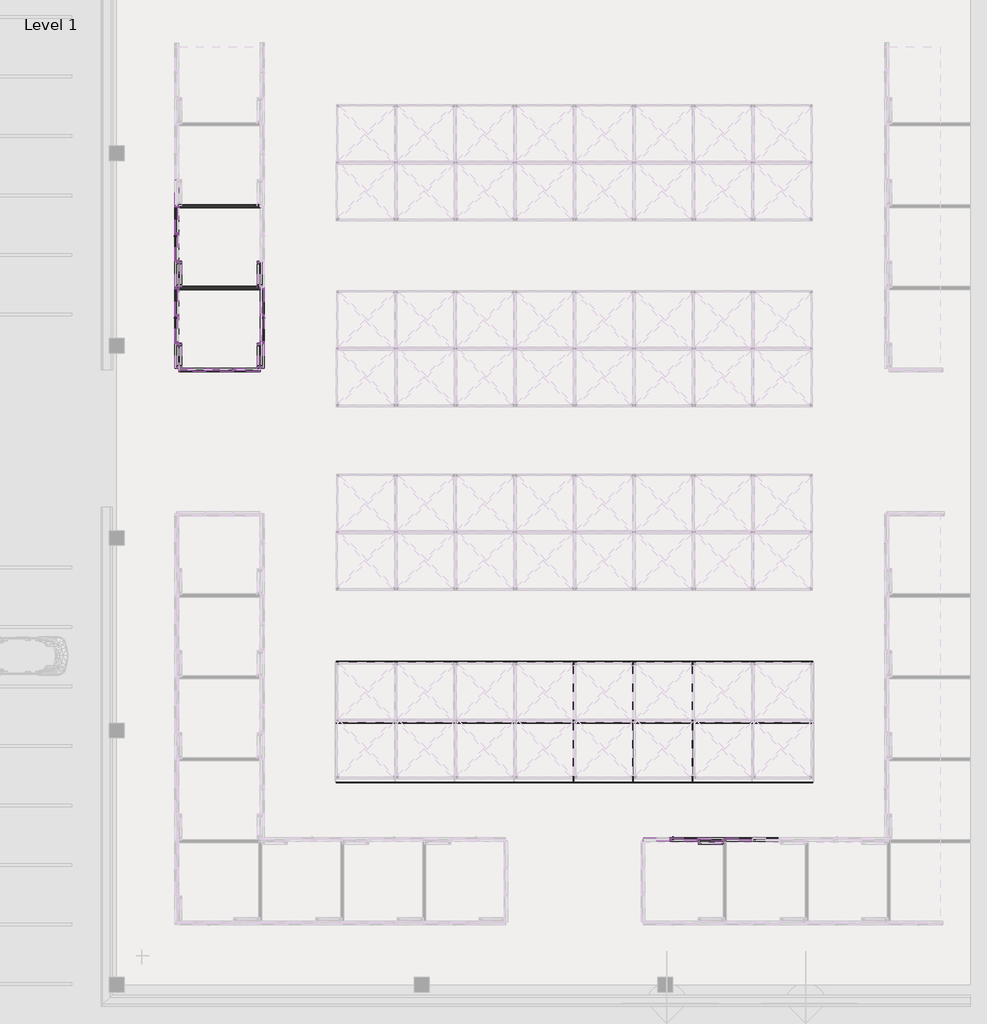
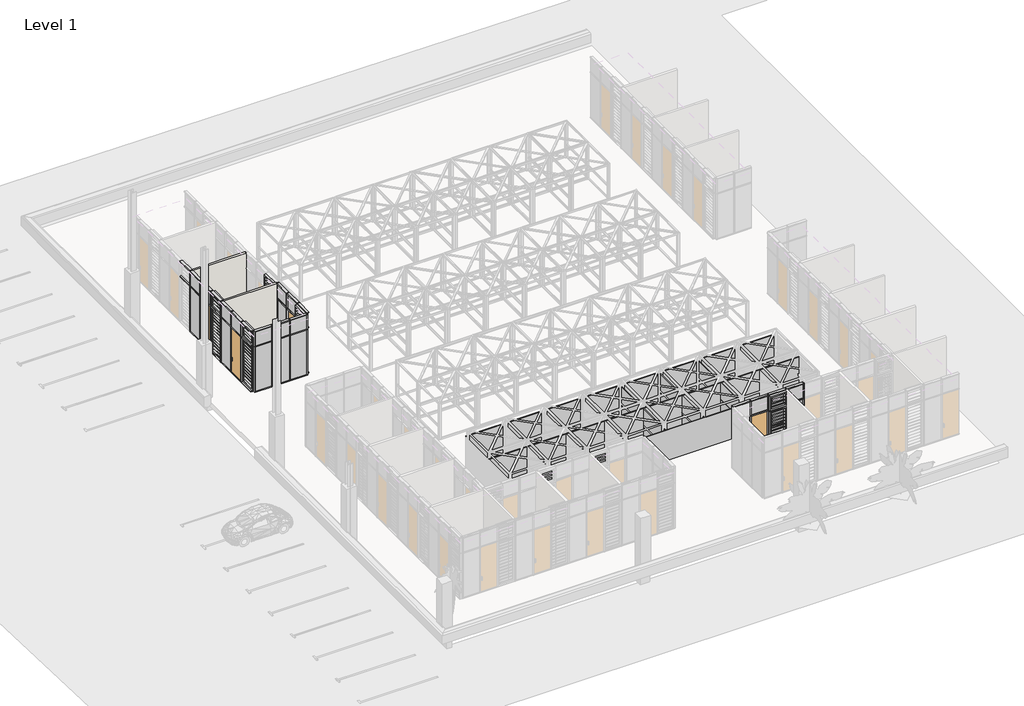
# One storey, part 5 of 32: 83 members, 34 plates, 4 doors, 2 walls.
"""IFC4 building model written with IfcOpenShell, lengths in millimetres."""

from ifc_helpers import new_model, si_unit, frame, origin, place, context, project, spatial, polyline, outline, extrude, transform, mapped, element, save
from components import curtain_wall_door_single_glass_nz_curtain_wall_door_single_2bf20aac, curtain_wall_door_single_glass_nz_curtain_wall_door_single_ff8afd41, rectangular_mullion_50x150mm_c4504768, rectangular_mullion_50x150mm_6c7cb899, rectangular_mullion_50x150mm_b0af8bb0, rectangular_mullion_50x150mm_bbc1c4ea, rectangular_mullion_50x150mm_1a36453b, rectangular_mullion_50x150mm_593aaa1e, rectangular_mullion_50x150mm_a65b6ca2, rectangular_mullion_50x150mm_38419d34, rectangular_mullion_50x150mm_eeb88b28, rectangular_mullion_50x150mm_68c91185, rectangular_mullion_50x150mm_0d540e17, rectangular_mullion_50x150mm_108cdc6f, rectangular_mullion_50x150mm_375c3673, rectangular_mullion_50x150mm_9239b3be, curtain_wall_panel_louver_20805_curtain_wall_panel_louver_4af505d4, curtain_wall_panel_louver_20805_curtain_wall_panel_louver_14332c5b, curtain_wall_panel_louver_20805_curtain_wall_panel_louver_d3fb298f, curtain_wall_panel_louver_20805_curtain_wall_panel_louver_ac1eef51, curtain_wall_panel_glass_louver_20805_curtain_wall_panel_036772b2, curtain_wall_panel_glass_louver_20805_curtain_wall_panel_0f8e40a1, curtain_wall_panel_glass_louver_20805_curtain_wall_panel_1d079b44, curtain_wall_panel_glass_louver_20805_curtain_wall_panel_de26d37e, system_panel_glazed_1b7991b1, system_panel_glazed_29269e8f, system_panel_glazed_a5e8ce8b, system_panel_glazed_7622d22c, system_panel_glazed_53fe5bbb, system_panel_glazed_57f08e05, system_panel_glazed_300e6ed4, system_panel_solid_585523e5, system_panel_solid_10c0fb46

model = new_model("IFC4")

# Units and contexts
model_context = context("Model", 3, world=origin())
ifc_project = project(units=[si_unit("LENGTHUNIT", "METRE", prefix="MILLI")], contexts=[model_context])

# Site, building, storey
site = spatial("IfcSite", under=ifc_project)
building = spatial("IfcBuilding", under=site)
storey = spatial("IfcBuildingStorey", under=building, Name="Level 1", Elevation=2800.0)

# Doors
placement = place(None, origin())
curtain_wall_door_single_glass_nz_curtain_wall_door_single_shape = curtain_wall_door_single_glass_nz_curtain_wall_door_single_2bf20aac(model_context)
element("IfcDoor", 1, ObjectType="Curtain Wall Door-Single-Glass (NZ) : Curtain Wall Door-Single-Glass (NZ)", at=placement, inside=storey, context=model_context, shape_type="MappedRepresentation", body=[
    mapped(curtain_wall_door_single_glass_nz_curtain_wall_door_single_shape, transform((-66780.3056756, -29943.4199596, 2850.0), x_axis=(1.0, 0.0, 0.0), y_axis=(0.0, 1.0, 0.0), z_axis=(0.0, 0.0, 1.0))),
])
element("IfcDoor", 2, ObjectType="Curtain Wall Door-Single-Glass (NZ) : Curtain Wall Door-Single-Glass (NZ)", at=placement, inside=storey, context=model_context, shape_type="MappedRepresentation", body=[
    mapped(curtain_wall_door_single_glass_nz_curtain_wall_door_single_shape, transform((-83784.8408447, -9355.9199596, 2850.0), x_axis=(0.0, -1.0, 0.0), y_axis=(1.0, 0.0, 0.0), z_axis=(0.0, 0.0, 1.0))),
])
curtain_wall_door_single_glass_nz_curtain_wall_door_single_2_shape = curtain_wall_door_single_glass_nz_curtain_wall_door_single_ff8afd41(model_context)
element("IfcDoor", 3, ObjectType="Curtain Wall Door-Single-Glass (NZ) : Curtain Wall Door-Single-Glass (NZ)", at=placement, inside=storey, context=model_context, shape_type="MappedRepresentation", body=[
    mapped(curtain_wall_door_single_glass_nz_curtain_wall_door_single_2_shape, transform((-87234.8408447, -6055.9199597, 2850.0), x_axis=(0.0, -1.0, 0.0), y_axis=(1.0, 0.0, 0.0), z_axis=(0.0, 0.0, 1.0))),
])
element("IfcDoor", 4, ObjectType="Curtain Wall Door-Single-Glass (NZ) : Curtain Wall Door-Single-Glass (NZ)", at=placement, inside=storey, context=model_context, shape_type="MappedRepresentation", body=[
    mapped(curtain_wall_door_single_glass_nz_curtain_wall_door_single_2_shape, transform((-87234.8408447, -9355.9199596, 2850.0), x_axis=(0.0, -1.0, 0.0), y_axis=(1.0, 0.0, 0.0), z_axis=(0.0, 0.0, 1.0))),
])

# Members
rectangular_mullion_50x150mm_shape = rectangular_mullion_50x150mm_c4504768(model_context)
element("IfcMember", 5, ObjectType="Rectangular Mullion : 50x150mm", at=placement, inside=storey, context=model_context, shape_type="MappedRepresentation", body=[
    mapped(rectangular_mullion_50x150mm_shape, transform((-65155.3056756, -29943.4199596, 5800.0), x_axis=(0.0, 0.0, 1.0), y_axis=(0.0, -1.0, 0.0), z_axis=(1.0, 0.0, 0.0))),
])
element("IfcMember", 6, ObjectType="Rectangular Mullion : 50x150mm", at=placement, inside=storey, context=model_context, shape_type="MappedRepresentation", body=[
    mapped(rectangular_mullion_50x150mm_shape, transform((-66255.3056756, -29943.4199596, 5800.0), x_axis=(0.0, 0.0, 1.0), y_axis=(0.0, -1.0, 0.0), z_axis=(1.0, 0.0, 0.0))),
])
element("IfcMember", 7, ObjectType="Rectangular Mullion : 50x150mm", at=placement, inside=storey, context=model_context, shape_type="MappedRepresentation", body=[
    mapped(rectangular_mullion_50x150mm_shape, transform((-64055.3056756, -29943.4199596, 5800.0), x_axis=(0.0, 0.0, 1.0), y_axis=(0.0, -1.0, 0.0), z_axis=(1.0, 0.0, 0.0))),
])
element("IfcMember", 8, ObjectType="Rectangular Mullion : 50x150mm", at=placement, inside=storey, context=model_context, shape_type="MappedRepresentation", body=[
    mapped(rectangular_mullion_50x150mm_shape, transform((-83784.8408447, -8780.9199596, 5800.0), x_axis=(0.0, 0.0, 1.0), y_axis=(-1.0, 0.0, 0.0), z_axis=(0.0, -1.0, 0.0))),
])
element("IfcMember", 9, ObjectType="Rectangular Mullion : 50x150mm", at=placement, inside=storey, context=model_context, shape_type="MappedRepresentation", body=[
    mapped(rectangular_mullion_50x150mm_shape, transform((-83784.8408447, -7680.9199596, 5800.0), x_axis=(0.0, 0.0, 1.0), y_axis=(-1.0, 0.0, 0.0), z_axis=(0.0, -1.0, 0.0))),
])
element("IfcMember", 10, ObjectType="Rectangular Mullion : 50x150mm", at=placement, inside=storey, context=model_context, shape_type="MappedRepresentation", body=[
    mapped(rectangular_mullion_50x150mm_shape, transform((-83784.8408447, -9880.9199596, 5800.0), x_axis=(0.0, 0.0, 1.0), y_axis=(-1.0, 0.0, 0.0), z_axis=(0.0, -1.0, 0.0))),
])
element("IfcMember", 11, ObjectType="Rectangular Mullion : 50x150mm", at=placement, inside=storey, context=model_context, shape_type="MappedRepresentation", body=[
    mapped(rectangular_mullion_50x150mm_shape, transform((-86034.8408446, -11005.9199596, 5800.0), x_axis=(0.0, 0.0, 1.0), y_axis=(0.0, 1.0, 0.0), z_axis=(-1.0, 0.0, 0.0))),
])
rectangular_mullion_50x150mm_2_shape = rectangular_mullion_50x150mm_6c7cb899(model_context)
element("IfcMember", 12, ObjectType="Rectangular Mullion : 50x150mm", at=placement, inside=storey, context=model_context, shape_type="MappedRepresentation", body=[
    mapped(rectangular_mullion_50x150mm_2_shape, transform((-64030.3056756, -29943.4199596, 2800.0), x_axis=(1.0, 0.0, 0.0), y_axis=(0.0, -1.0, 0.0), z_axis=(0.0, 0.0, -1.0))),
])
element("IfcMember", 13, ObjectType="Rectangular Mullion : 50x150mm", at=placement, inside=storey, context=model_context, shape_type="MappedRepresentation", body=[
    mapped(rectangular_mullion_50x150mm_2_shape, transform((-65130.3056756, -29943.4199596, 2800.0), x_axis=(1.0, 0.0, 0.0), y_axis=(0.0, -1.0, 0.0), z_axis=(0.0, 0.0, -1.0))),
])
element("IfcMember", 14, ObjectType="Rectangular Mullion : 50x150mm", at=placement, inside=storey, context=model_context, shape_type="MappedRepresentation", body=[
    mapped(rectangular_mullion_50x150mm_2_shape, transform((-66230.3056756, -29943.4199596, 2800.0), x_axis=(1.0, 0.0, 0.0), y_axis=(0.0, -1.0, 0.0), z_axis=(0.0, 0.0, -1.0))),
])
element("IfcMember", 15, ObjectType="Rectangular Mullion : 50x150mm", at=placement, inside=storey, context=model_context, shape_type="MappedRepresentation", body=[
    mapped(rectangular_mullion_50x150mm_2_shape, transform((-67330.3056756, -29943.4199596, 2800.0), x_axis=(1.0, 0.0, 0.0), y_axis=(0.0, -1.0, 0.0), z_axis=(0.0, 0.0, -1.0))),
])
element("IfcMember", 16, ObjectType="Rectangular Mullion : 50x150mm", at=placement, inside=storey, context=model_context, shape_type="MappedRepresentation", body=[
    mapped(rectangular_mullion_50x150mm_2_shape, transform((-83784.8408447, -8805.9199596, 2800.0), x_axis=(0.0, -1.0, 0.0), y_axis=(-1.0, 0.0, 0.0), z_axis=(0.0, 0.0, -1.0))),
])
element("IfcMember", 17, ObjectType="Rectangular Mullion : 50x150mm", at=placement, inside=storey, context=model_context, shape_type="MappedRepresentation", body=[
    mapped(rectangular_mullion_50x150mm_2_shape, transform((-83784.8408447, -9905.9199596, 2800.0), x_axis=(0.0, -1.0, 0.0), y_axis=(-1.0, 0.0, 0.0), z_axis=(0.0, 0.0, -1.0))),
])
element("IfcMember", 18, ObjectType="Rectangular Mullion : 50x150mm", at=placement, inside=storey, context=model_context, shape_type="MappedRepresentation", body=[
    mapped(rectangular_mullion_50x150mm_2_shape, transform((-86059.8408446, -11005.9199596, 2800.0), x_axis=(-1.0, 0.0, 0.0), y_axis=(0.0, 1.0, 0.0), z_axis=(0.0, 0.0, -1.0))),
])
element("IfcMember", 19, ObjectType="Rectangular Mullion : 50x150mm", at=placement, inside=storey, context=model_context, shape_type="MappedRepresentation", body=[
    mapped(rectangular_mullion_50x150mm_2_shape, transform((-84959.8408448, -11005.9199596, 2800.0), x_axis=(-1.0, 0.0, 0.0), y_axis=(0.0, 1.0, 0.0), z_axis=(0.0, 0.0, -1.0))),
])
rectangular_mullion_50x150mm_3_shape = rectangular_mullion_50x150mm_b0af8bb0(model_context)
element("IfcMember", 20, ObjectType="Rectangular Mullion : 50x150mm", at=placement, inside=storey, context=model_context, shape_type="MappedRepresentation", body=[
    mapped(rectangular_mullion_50x150mm_3_shape, transform((-64005.3056756, -29943.4199596, 2800.0), x_axis=(0.0, 0.0, -1.0), y_axis=(0.0, -1.0, 0.0), z_axis=(-1.0, 0.0, 0.0))),
])
element("IfcMember", 21, ObjectType="Rectangular Mullion : 50x150mm", at=placement, inside=storey, context=model_context, shape_type="MappedRepresentation", body=[
    mapped(rectangular_mullion_50x150mm_3_shape, transform((-66205.3056756, -29943.4199596, 2800.0), x_axis=(0.0, 0.0, -1.0), y_axis=(0.0, -1.0, 0.0), z_axis=(-1.0, 0.0, 0.0))),
])
element("IfcMember", 22, ObjectType="Rectangular Mullion : 50x150mm", at=placement, inside=storey, context=model_context, shape_type="MappedRepresentation", body=[
    mapped(rectangular_mullion_50x150mm_3_shape, transform((-67305.3056756, -29943.4199596, 2800.0), x_axis=(0.0, 0.0, -1.0), y_axis=(0.0, -1.0, 0.0), z_axis=(-1.0, 0.0, 0.0))),
])
element("IfcMember", 23, ObjectType="Rectangular Mullion : 50x150mm", at=placement, inside=storey, context=model_context, shape_type="MappedRepresentation", body=[
    mapped(rectangular_mullion_50x150mm_3_shape, transform((-65105.3056756, -29943.4199596, 2800.0), x_axis=(0.0, 0.0, -1.0), y_axis=(0.0, -1.0, 0.0), z_axis=(-1.0, 0.0, 0.0))),
])
element("IfcMember", 24, ObjectType="Rectangular Mullion : 50x150mm", at=placement, inside=storey, context=model_context, shape_type="MappedRepresentation", body=[
    mapped(rectangular_mullion_50x150mm_3_shape, transform((-83784.8408447, -7730.9199596, 2800.0), x_axis=(0.0, 0.0, -1.0), y_axis=(-1.0, 0.0, 0.0), z_axis=(0.0, 1.0, 0.0))),
])
element("IfcMember", 25, ObjectType="Rectangular Mullion : 50x150mm", at=placement, inside=storey, context=model_context, shape_type="MappedRepresentation", body=[
    mapped(rectangular_mullion_50x150mm_3_shape, transform((-83784.8408447, -8830.9199596, 2800.0), x_axis=(0.0, 0.0, -1.0), y_axis=(-1.0, 0.0, 0.0), z_axis=(0.0, 1.0, 0.0))),
])
element("IfcMember", 26, ObjectType="Rectangular Mullion : 50x150mm", at=placement, inside=storey, context=model_context, shape_type="MappedRepresentation", body=[
    mapped(rectangular_mullion_50x150mm_3_shape, transform((-84984.8408448, -11005.9199596, 2800.0), x_axis=(0.0, 0.0, -1.0), y_axis=(0.0, 1.0, 0.0), z_axis=(1.0, 0.0, 0.0))),
])
rectangular_mullion_50x150mm_4_shape = rectangular_mullion_50x150mm_bbc1c4ea(model_context)
element("IfcMember", 27, ObjectType="Rectangular Mullion : 50x150mm", at=placement, inside=storey, context=model_context, shape_type="MappedRepresentation", body=[
    mapped(rectangular_mullion_50x150mm_4_shape, transform((-64030.3056756, -29943.4199596, 5800.0), x_axis=(1.0, 0.0, 0.0), y_axis=(0.0, -1.0, 0.0), z_axis=(0.0, 0.0, -1.0))),
])
element("IfcMember", 28, ObjectType="Rectangular Mullion : 50x150mm", at=placement, inside=storey, context=model_context, shape_type="MappedRepresentation", body=[
    mapped(rectangular_mullion_50x150mm_4_shape, transform((-65130.3056756, -29943.4199596, 5800.0), x_axis=(1.0, 0.0, 0.0), y_axis=(0.0, -1.0, 0.0), z_axis=(0.0, 0.0, -1.0))),
])
element("IfcMember", 29, ObjectType="Rectangular Mullion : 50x150mm", at=placement, inside=storey, context=model_context, shape_type="MappedRepresentation", body=[
    mapped(rectangular_mullion_50x150mm_4_shape, transform((-66230.3056756, -29943.4199596, 5800.0), x_axis=(1.0, 0.0, 0.0), y_axis=(0.0, -1.0, 0.0), z_axis=(0.0, 0.0, -1.0))),
])
element("IfcMember", 30, ObjectType="Rectangular Mullion : 50x150mm", at=placement, inside=storey, context=model_context, shape_type="MappedRepresentation", body=[
    mapped(rectangular_mullion_50x150mm_4_shape, transform((-67330.3056756, -29943.4199596, 5800.0), x_axis=(1.0, 0.0, 0.0), y_axis=(0.0, -1.0, 0.0), z_axis=(0.0, 0.0, -1.0))),
])
element("IfcMember", 31, ObjectType="Rectangular Mullion : 50x150mm", at=placement, inside=storey, context=model_context, shape_type="MappedRepresentation", body=[
    mapped(rectangular_mullion_50x150mm_4_shape, transform((-83784.8408447, -7705.9199596, 5800.0), x_axis=(0.0, -1.0, 0.0), y_axis=(-1.0, 0.0, 0.0), z_axis=(0.0, 0.0, -1.0))),
])
element("IfcMember", 32, ObjectType="Rectangular Mullion : 50x150mm", at=placement, inside=storey, context=model_context, shape_type="MappedRepresentation", body=[
    mapped(rectangular_mullion_50x150mm_4_shape, transform((-83784.8408447, -8805.9199596, 5800.0), x_axis=(0.0, -1.0, 0.0), y_axis=(-1.0, 0.0, 0.0), z_axis=(0.0, 0.0, -1.0))),
])
element("IfcMember", 33, ObjectType="Rectangular Mullion : 50x150mm", at=placement, inside=storey, context=model_context, shape_type="MappedRepresentation", body=[
    mapped(rectangular_mullion_50x150mm_4_shape, transform((-83784.8408447, -9905.9199596, 5800.0), x_axis=(0.0, -1.0, 0.0), y_axis=(-1.0, 0.0, 0.0), z_axis=(0.0, 0.0, -1.0))),
])
element("IfcMember", 34, ObjectType="Rectangular Mullion : 50x150mm", at=placement, inside=storey, context=model_context, shape_type="MappedRepresentation", body=[
    mapped(rectangular_mullion_50x150mm_4_shape, transform((-86059.8408446, -11005.9199596, 5800.0), x_axis=(-1.0, 0.0, 0.0), y_axis=(0.0, 1.0, 0.0), z_axis=(0.0, 0.0, -1.0))),
])
element("IfcMember", 35, ObjectType="Rectangular Mullion : 50x150mm", at=placement, inside=storey, context=model_context, shape_type="MappedRepresentation", body=[
    mapped(rectangular_mullion_50x150mm_4_shape, transform((-84959.8408448, -11005.9199596, 5800.0), x_axis=(-1.0, 0.0, 0.0), y_axis=(0.0, 1.0, 0.0), z_axis=(0.0, 0.0, -1.0))),
])
rectangular_mullion_50x150mm_5_shape = rectangular_mullion_50x150mm_1a36453b(model_context)
element("IfcMember", 36, ObjectType="Rectangular Mullion : 50x150mm", at=placement, inside=storey, context=model_context, shape_type="MappedRepresentation", body=[
    mapped(rectangular_mullion_50x150mm_5_shape, transform((-64055.3056756, -29943.4199596, 6800.0), x_axis=(0.0, 0.0, 1.0), y_axis=(0.0, -1.0, 0.0), z_axis=(1.0, 0.0, 0.0))),
])
element("IfcMember", 37, ObjectType="Rectangular Mullion : 50x150mm", at=placement, inside=storey, context=model_context, shape_type="MappedRepresentation", body=[
    mapped(rectangular_mullion_50x150mm_5_shape, transform((-66255.3056756, -29943.4199596, 6800.0), x_axis=(0.0, 0.0, 1.0), y_axis=(0.0, -1.0, 0.0), z_axis=(1.0, 0.0, 0.0))),
])
element("IfcMember", 38, ObjectType="Rectangular Mullion : 50x150mm", at=placement, inside=storey, context=model_context, shape_type="MappedRepresentation", body=[
    mapped(rectangular_mullion_50x150mm_5_shape, transform((-65155.3056756, -29943.4199596, 6800.0), x_axis=(0.0, 0.0, 1.0), y_axis=(0.0, -1.0, 0.0), z_axis=(1.0, 0.0, 0.0))),
])
element("IfcMember", 39, ObjectType="Rectangular Mullion : 50x150mm", at=placement, inside=storey, context=model_context, shape_type="MappedRepresentation", body=[
    mapped(rectangular_mullion_50x150mm_5_shape, transform((-83784.8408447, -9880.9199596, 6800.0), x_axis=(0.0, 0.0, 1.0), y_axis=(-1.0, 0.0, 0.0), z_axis=(0.0, -1.0, 0.0))),
])
element("IfcMember", 40, ObjectType="Rectangular Mullion : 50x150mm", at=placement, inside=storey, context=model_context, shape_type="MappedRepresentation", body=[
    mapped(rectangular_mullion_50x150mm_5_shape, transform((-83784.8408447, -8780.9199596, 6800.0), x_axis=(0.0, 0.0, 1.0), y_axis=(-1.0, 0.0, 0.0), z_axis=(0.0, -1.0, 0.0))),
])
element("IfcMember", 41, ObjectType="Rectangular Mullion : 50x150mm", at=placement, inside=storey, context=model_context, shape_type="MappedRepresentation", body=[
    mapped(rectangular_mullion_50x150mm_5_shape, transform((-86034.8408446, -11005.9199596, 6800.0), x_axis=(0.0, 0.0, 1.0), y_axis=(0.0, 1.0, 0.0), z_axis=(-1.0, 0.0, 0.0))),
])
rectangular_mullion_50x150mm_6_shape = rectangular_mullion_50x150mm_593aaa1e(model_context)
element("IfcMember", 42, ObjectType="Rectangular Mullion : 50x150mm", at=placement, inside=storey, context=model_context, shape_type="MappedRepresentation", body=[
    mapped(rectangular_mullion_50x150mm_6_shape, transform((-67355.3056756, -29943.4199596, 6800.0), x_axis=(0.0, 0.0, 1.0), y_axis=(0.0, -1.0, 0.0), z_axis=(1.0, 0.0, 0.0))),
])
rectangular_mullion_50x150mm_7_shape = rectangular_mullion_50x150mm_a65b6ca2(model_context)
element("IfcMember", 43, ObjectType="Rectangular Mullion : 50x150mm", at=placement, inside=storey, context=model_context, shape_type="MappedRepresentation", body=[
    mapped(rectangular_mullion_50x150mm_7_shape, transform((-84934.8408448, -11005.9199596, 6800.0), x_axis=(0.0, 0.0, 1.0), y_axis=(0.0, 1.0, 0.0), z_axis=(-1.0, 0.0, 0.0))),
])
element("IfcMember", 44, ObjectType="Rectangular Mullion : 50x150mm", at=placement, inside=storey, context=model_context, shape_type="MappedRepresentation", body=[
    mapped(rectangular_mullion_50x150mm_7_shape, transform((-87109.8408447, -11005.9199596, 6800.0), x_axis=(0.0, 0.0, 1.0), y_axis=(0.0, 1.0, 0.0), z_axis=(-1.0, 0.0, 0.0))),
])
element("IfcMember", 45, ObjectType="Rectangular Mullion : 50x150mm", at=placement, inside=storey, context=model_context, shape_type="MappedRepresentation", body=[
    mapped(rectangular_mullion_50x150mm_7_shape, transform((-86084.8408446, -11005.9199596, 2800.0), x_axis=(0.0, 0.0, -1.0), y_axis=(0.0, 1.0, 0.0), z_axis=(1.0, 0.0, 0.0))),
])
element("IfcMember", 46, ObjectType="Rectangular Mullion : 50x150mm", at=placement, inside=storey, context=model_context, shape_type="MappedRepresentation", body=[
    mapped(rectangular_mullion_50x150mm_7_shape, transform((-83909.8408447, -11005.9199596, 2800.0), x_axis=(0.0, 0.0, -1.0), y_axis=(0.0, 1.0, 0.0), z_axis=(1.0, 0.0, 0.0))),
])
rectangular_mullion_50x150mm_8_shape = rectangular_mullion_50x150mm_38419d34(model_context)
element("IfcMember", 47, ObjectType="Rectangular Mullion : 50x150mm", at=placement, inside=storey, context=model_context, shape_type="MappedRepresentation", body=[
    mapped(rectangular_mullion_50x150mm_8_shape, transform((-87109.8408447, -11005.9199596, 5800.0), x_axis=(0.0, 0.0, 1.0), y_axis=(0.0, 1.0, 0.0), z_axis=(-1.0, 0.0, 0.0))),
])
element("IfcMember", 48, ObjectType="Rectangular Mullion : 50x150mm", at=placement, inside=storey, context=model_context, shape_type="MappedRepresentation", body=[
    mapped(rectangular_mullion_50x150mm_8_shape, transform((-84934.8408448, -11005.9199596, 5800.0), x_axis=(0.0, 0.0, 1.0), y_axis=(0.0, 1.0, 0.0), z_axis=(-1.0, 0.0, 0.0))),
])
rectangular_mullion_50x150mm_9_shape = rectangular_mullion_50x150mm_eeb88b28(model_context)
element("IfcMember", 49, ObjectType="Rectangular Mullion : 50x150mm", at=placement, inside=storey, context=model_context, shape_type="MappedRepresentation", body=[
    mapped(rectangular_mullion_50x150mm_9_shape, transform((-83859.8408447, -11005.9199596, 6800.0), x_axis=(1.0, 0.0, 0.0), y_axis=(0.0, 1.0, 0.0), z_axis=(0.0, 0.0, 1.0))),
])
rectangular_mullion_50x150mm_10_shape = rectangular_mullion_50x150mm_68c91185(model_context)
element("IfcMember", 50, ObjectType="Rectangular Mullion : 50x150mm", at=placement, inside=storey, context=model_context, shape_type="MappedRepresentation", body=[
    mapped(rectangular_mullion_50x150mm_10_shape, transform((-87159.8408447, -11005.9199596, 2800.0), x_axis=(-1.0, 0.0, 0.0), y_axis=(0.0, 1.0, 0.0), z_axis=(0.0, 0.0, -1.0))),
])
element("IfcMember", 51, ObjectType="Rectangular Mullion : 50x150mm", at=placement, inside=storey, context=model_context, shape_type="MappedRepresentation", body=[
    mapped(rectangular_mullion_50x150mm_9_shape, transform((-87159.8408447, -11005.9199596, 5800.0), x_axis=(-1.0, 0.0, 0.0), y_axis=(0.0, 1.0, 0.0), z_axis=(0.0, 0.0, -1.0))),
])
element("IfcMember", 52, ObjectType="Rectangular Mullion : 50x150mm", at=placement, inside=storey, context=model_context, shape_type="MappedRepresentation", body=[
    mapped(rectangular_mullion_50x150mm_10_shape, transform((-83859.8408447, -11005.9199596, 5800.0), x_axis=(1.0, 0.0, 0.0), y_axis=(0.0, 1.0, 0.0), z_axis=(0.0, 0.0, 1.0))),
])
element("IfcMember", 53, ObjectType="Rectangular Mullion : 50x150mm", at=placement, inside=storey, context=model_context, shape_type="MappedRepresentation", body=[
    mapped(rectangular_mullion_50x150mm_4_shape, transform((-87234.8408447, -5505.9199597, 5800.0), x_axis=(0.0, -1.0, 0.0), y_axis=(-1.0, 0.0, 0.0), z_axis=(0.0, 0.0, -1.0))),
])
element("IfcMember", 54, ObjectType="Rectangular Mullion : 50x150mm", at=placement, inside=storey, context=model_context, shape_type="MappedRepresentation", body=[
    mapped(rectangular_mullion_50x150mm_4_shape, transform((-87234.8408447, -6605.9199596, 5800.0), x_axis=(0.0, -1.0, 0.0), y_axis=(-1.0, 0.0, 0.0), z_axis=(0.0, 0.0, -1.0))),
])
element("IfcMember", 55, ObjectType="Rectangular Mullion : 50x150mm", at=placement, inside=storey, context=model_context, shape_type="MappedRepresentation", body=[
    mapped(rectangular_mullion_50x150mm_4_shape, transform((-87234.8408447, -4405.9199596, 5800.0), x_axis=(0.0, -1.0, 0.0), y_axis=(-1.0, 0.0, 0.0), z_axis=(0.0, 0.0, -1.0))),
])
element("IfcMember", 56, ObjectType="Rectangular Mullion : 50x150mm", at=placement, inside=storey, context=model_context, shape_type="MappedRepresentation", body=[
    mapped(rectangular_mullion_50x150mm_4_shape, transform((-87234.8408447, -7705.9199596, 5800.0), x_axis=(0.0, -1.0, 0.0), y_axis=(-1.0, 0.0, 0.0), z_axis=(0.0, 0.0, -1.0))),
])
element("IfcMember", 57, ObjectType="Rectangular Mullion : 50x150mm", at=placement, inside=storey, context=model_context, shape_type="MappedRepresentation", body=[
    mapped(rectangular_mullion_50x150mm_4_shape, transform((-87234.8408447, -8805.9199596, 5800.0), x_axis=(0.0, -1.0, 0.0), y_axis=(-1.0, 0.0, 0.0), z_axis=(0.0, 0.0, -1.0))),
])
element("IfcMember", 58, ObjectType="Rectangular Mullion : 50x150mm", at=placement, inside=storey, context=model_context, shape_type="MappedRepresentation", body=[
    mapped(rectangular_mullion_50x150mm_4_shape, transform((-87234.8408447, -9905.9199596, 5800.0), x_axis=(0.0, -1.0, 0.0), y_axis=(-1.0, 0.0, 0.0), z_axis=(0.0, 0.0, -1.0))),
])
element("IfcMember", 59, ObjectType="Rectangular Mullion : 50x150mm", at=placement, inside=storey, context=model_context, shape_type="MappedRepresentation", body=[
    mapped(rectangular_mullion_50x150mm_2_shape, transform((-87234.8408447, -5505.9199597, 2800.0), x_axis=(0.0, -1.0, 0.0), y_axis=(-1.0, 0.0, 0.0), z_axis=(0.0, 0.0, -1.0))),
])
element("IfcMember", 60, ObjectType="Rectangular Mullion : 50x150mm", at=placement, inside=storey, context=model_context, shape_type="MappedRepresentation", body=[
    mapped(rectangular_mullion_50x150mm_2_shape, transform((-87234.8408447, -6605.9199596, 2800.0), x_axis=(0.0, -1.0, 0.0), y_axis=(-1.0, 0.0, 0.0), z_axis=(0.0, 0.0, -1.0))),
])
element("IfcMember", 61, ObjectType="Rectangular Mullion : 50x150mm", at=placement, inside=storey, context=model_context, shape_type="MappedRepresentation", body=[
    mapped(rectangular_mullion_50x150mm_2_shape, transform((-87234.8408447, -4405.9199596, 2800.0), x_axis=(0.0, -1.0, 0.0), y_axis=(-1.0, 0.0, 0.0), z_axis=(0.0, 0.0, -1.0))),
])
element("IfcMember", 62, ObjectType="Rectangular Mullion : 50x150mm", at=placement, inside=storey, context=model_context, shape_type="MappedRepresentation", body=[
    mapped(rectangular_mullion_50x150mm_2_shape, transform((-87234.8408447, -7705.9199596, 2800.0), x_axis=(0.0, -1.0, 0.0), y_axis=(-1.0, 0.0, 0.0), z_axis=(0.0, 0.0, -1.0))),
])
element("IfcMember", 63, ObjectType="Rectangular Mullion : 50x150mm", at=placement, inside=storey, context=model_context, shape_type="MappedRepresentation", body=[
    mapped(rectangular_mullion_50x150mm_2_shape, transform((-87234.8408447, -8805.9199596, 2800.0), x_axis=(0.0, -1.0, 0.0), y_axis=(-1.0, 0.0, 0.0), z_axis=(0.0, 0.0, -1.0))),
])
element("IfcMember", 64, ObjectType="Rectangular Mullion : 50x150mm", at=placement, inside=storey, context=model_context, shape_type="MappedRepresentation", body=[
    mapped(rectangular_mullion_50x150mm_2_shape, transform((-87234.8408447, -9905.9199596, 2800.0), x_axis=(0.0, -1.0, 0.0), y_axis=(-1.0, 0.0, 0.0), z_axis=(0.0, 0.0, -1.0))),
])
rectangular_mullion_50x150mm_11_shape = rectangular_mullion_50x150mm_0d540e17(model_context)
element("IfcMember", 65, ObjectType="Rectangular Mullion : 50x150mm", at=placement, inside=storey, context=model_context, shape_type="MappedRepresentation", body=[
    mapped(rectangular_mullion_50x150mm_11_shape, transform((-87234.8408447, -5480.9199597, 5800.0), x_axis=(0.0, 0.0, 1.0), y_axis=(-1.0, 0.0, 0.0), z_axis=(0.0, -1.0, 0.0))),
])
element("IfcMember", 66, ObjectType="Rectangular Mullion : 50x150mm", at=placement, inside=storey, context=model_context, shape_type="MappedRepresentation", body=[
    mapped(rectangular_mullion_50x150mm_11_shape, transform((-87234.8408447, -8780.9199596, 5800.0), x_axis=(0.0, 0.0, 1.0), y_axis=(-1.0, 0.0, 0.0), z_axis=(0.0, -1.0, 0.0))),
])
element("IfcMember", 67, ObjectType="Rectangular Mullion : 50x150mm", at=placement, inside=storey, context=model_context, shape_type="MappedRepresentation", body=[
    mapped(rectangular_mullion_50x150mm_11_shape, transform((-87234.8408447, -7680.9199596, 5800.0), x_axis=(0.0, 0.0, 1.0), y_axis=(-1.0, 0.0, 0.0), z_axis=(0.0, -1.0, 0.0))),
])
element("IfcMember", 68, ObjectType="Rectangular Mullion : 50x150mm", at=placement, inside=storey, context=model_context, shape_type="MappedRepresentation", body=[
    mapped(rectangular_mullion_50x150mm_11_shape, transform((-87234.8408447, -6580.9199596, 5800.0), x_axis=(0.0, 0.0, 1.0), y_axis=(-1.0, 0.0, 0.0), z_axis=(0.0, -1.0, 0.0))),
])
element("IfcMember", 69, ObjectType="Rectangular Mullion : 50x150mm", at=placement, inside=storey, context=model_context, shape_type="MappedRepresentation", body=[
    mapped(rectangular_mullion_50x150mm_11_shape, transform((-87234.8408447, -4380.9199596, 5800.0), x_axis=(0.0, 0.0, 1.0), y_axis=(-1.0, 0.0, 0.0), z_axis=(0.0, -1.0, 0.0))),
])
element("IfcMember", 70, ObjectType="Rectangular Mullion : 50x150mm", at=placement, inside=storey, context=model_context, shape_type="MappedRepresentation", body=[
    mapped(rectangular_mullion_50x150mm_11_shape, transform((-87234.8408447, -9880.9199596, 5800.0), x_axis=(0.0, 0.0, 1.0), y_axis=(-1.0, 0.0, 0.0), z_axis=(0.0, -1.0, 0.0))),
])
rectangular_mullion_50x150mm_12_shape = rectangular_mullion_50x150mm_108cdc6f(model_context)
element("IfcMember", 71, ObjectType="Rectangular Mullion : 50x150mm", at=placement, inside=storey, context=model_context, shape_type="MappedRepresentation", body=[
    mapped(rectangular_mullion_50x150mm_12_shape, transform((-87234.8408447, -4430.9199596, 2800.0), x_axis=(0.0, 0.0, -1.0), y_axis=(-1.0, 0.0, 0.0), z_axis=(0.0, 1.0, 0.0))),
])
element("IfcMember", 72, ObjectType="Rectangular Mullion : 50x150mm", at=placement, inside=storey, context=model_context, shape_type="MappedRepresentation", body=[
    mapped(rectangular_mullion_50x150mm_12_shape, transform((-87234.8408447, -7730.9199596, 2800.0), x_axis=(0.0, 0.0, -1.0), y_axis=(-1.0, 0.0, 0.0), z_axis=(0.0, 1.0, 0.0))),
])
element("IfcMember", 73, ObjectType="Rectangular Mullion : 50x150mm", at=placement, inside=storey, context=model_context, shape_type="MappedRepresentation", body=[
    mapped(rectangular_mullion_50x150mm_12_shape, transform((-87234.8408447, -6630.9199596, 2800.0), x_axis=(0.0, 0.0, -1.0), y_axis=(-1.0, 0.0, 0.0), z_axis=(0.0, 1.0, 0.0))),
])
element("IfcMember", 74, ObjectType="Rectangular Mullion : 50x150mm", at=placement, inside=storey, context=model_context, shape_type="MappedRepresentation", body=[
    mapped(rectangular_mullion_50x150mm_12_shape, transform((-87234.8408447, -5530.9199597, 2800.0), x_axis=(0.0, 0.0, -1.0), y_axis=(-1.0, 0.0, 0.0), z_axis=(0.0, 1.0, 0.0))),
])
element("IfcMember", 75, ObjectType="Rectangular Mullion : 50x150mm", at=placement, inside=storey, context=model_context, shape_type="MappedRepresentation", body=[
    mapped(rectangular_mullion_50x150mm_12_shape, transform((-87234.8408447, -8830.9199596, 2800.0), x_axis=(0.0, 0.0, -1.0), y_axis=(-1.0, 0.0, 0.0), z_axis=(0.0, 1.0, 0.0))),
])
element("IfcMember", 76, ObjectType="Rectangular Mullion : 50x150mm", at=placement, inside=storey, context=model_context, shape_type="MappedRepresentation", body=[
    mapped(rectangular_mullion_50x150mm_5_shape, transform((-87234.8408447, -4380.9199596, 6800.0), x_axis=(0.0, 0.0, 1.0), y_axis=(-1.0, 0.0, 0.0), z_axis=(0.0, -1.0, 0.0))),
])
element("IfcMember", 77, ObjectType="Rectangular Mullion : 50x150mm", at=placement, inside=storey, context=model_context, shape_type="MappedRepresentation", body=[
    mapped(rectangular_mullion_50x150mm_5_shape, transform((-87234.8408447, -9880.9199596, 6800.0), x_axis=(0.0, 0.0, 1.0), y_axis=(-1.0, 0.0, 0.0), z_axis=(0.0, -1.0, 0.0))),
])
element("IfcMember", 78, ObjectType="Rectangular Mullion : 50x150mm", at=placement, inside=storey, context=model_context, shape_type="MappedRepresentation", body=[
    mapped(rectangular_mullion_50x150mm_5_shape, transform((-87234.8408447, -7680.9199596, 6800.0), x_axis=(0.0, 0.0, 1.0), y_axis=(-1.0, 0.0, 0.0), z_axis=(0.0, -1.0, 0.0))),
])
element("IfcMember", 79, ObjectType="Rectangular Mullion : 50x150mm", at=placement, inside=storey, context=model_context, shape_type="MappedRepresentation", body=[
    mapped(rectangular_mullion_50x150mm_5_shape, transform((-87234.8408447, -6580.9199596, 6800.0), x_axis=(0.0, 0.0, 1.0), y_axis=(-1.0, 0.0, 0.0), z_axis=(0.0, -1.0, 0.0))),
])
element("IfcMember", 80, ObjectType="Rectangular Mullion : 50x150mm", at=placement, inside=storey, context=model_context, shape_type="MappedRepresentation", body=[
    mapped(rectangular_mullion_50x150mm_5_shape, transform((-87234.8408447, -5480.9199597, 6800.0), x_axis=(0.0, 0.0, 1.0), y_axis=(-1.0, 0.0, 0.0), z_axis=(0.0, -1.0, 0.0))),
])
element("IfcMember", 81, ObjectType="Rectangular Mullion : 50x150mm", at=placement, inside=storey, context=model_context, shape_type="MappedRepresentation", body=[
    mapped(rectangular_mullion_50x150mm_5_shape, transform((-87234.8408447, -8780.9199596, 6800.0), x_axis=(0.0, 0.0, 1.0), y_axis=(-1.0, 0.0, 0.0), z_axis=(0.0, -1.0, 0.0))),
])
rectangular_mullion_50x150mm_13_shape = rectangular_mullion_50x150mm_375c3673(model_context)
element("IfcMember", 82, ObjectType="Rectangular Mullion : 50x150mm", at=placement, inside=storey, context=model_context, shape_type="MappedRepresentation", body=[
    mapped(rectangular_mullion_50x150mm_13_shape, transform((-87234.8408447, -10943.4199596, 5800.0), x_axis=(0.0, 0.0, 1.0), y_axis=(-1.0, 0.0, 0.0), z_axis=(0.0, -1.0, 0.0))),
])
rectangular_mullion_50x150mm_14_shape = rectangular_mullion_50x150mm_9239b3be(model_context)
element("IfcMember", 83, ObjectType="Rectangular Mullion : 50x150mm", at=placement, inside=storey, context=model_context, shape_type="MappedRepresentation", body=[
    mapped(rectangular_mullion_50x150mm_14_shape, transform((-87234.8408447, -9930.9199596, 2800.0), x_axis=(0.0, 0.0, -1.0), y_axis=(-1.0, 0.0, 0.0), z_axis=(0.0, 1.0, 0.0))),
])
element("IfcMember", 84, ObjectType="Rectangular Mullion : 50x150mm", at=placement, inside=storey, context=model_context, shape_type="MappedRepresentation", body=[
    mapped(rectangular_mullion_50x150mm_14_shape, transform((-87234.8408447, -10943.4199596, 6800.0), x_axis=(0.0, 0.0, 1.0), y_axis=(-1.0, 0.0, 0.0), z_axis=(0.0, -1.0, 0.0))),
])
element("IfcMember", 85, ObjectType="Rectangular Mullion : 50x150mm", at=placement, inside=storey, context=model_context, shape_type="MappedRepresentation", body=[
    mapped(rectangular_mullion_50x150mm_13_shape, transform((-83784.8408447, -10943.4199596, 5800.0), x_axis=(0.0, 0.0, 1.0), y_axis=(-1.0, 0.0, 0.0), z_axis=(0.0, -1.0, 0.0))),
])
element("IfcMember", 86, ObjectType="Rectangular Mullion : 50x150mm", at=placement, inside=storey, context=model_context, shape_type="MappedRepresentation", body=[
    mapped(rectangular_mullion_50x150mm_14_shape, transform((-83784.8408447, -9930.9199596, 2800.0), x_axis=(0.0, 0.0, -1.0), y_axis=(-1.0, 0.0, 0.0), z_axis=(0.0, 1.0, 0.0))),
])
element("IfcMember", 87, ObjectType="Rectangular Mullion : 50x150mm", at=placement, inside=storey, context=model_context, shape_type="MappedRepresentation", body=[
    mapped(rectangular_mullion_50x150mm_14_shape, transform((-83784.8408447, -10943.4199596, 6800.0), x_axis=(0.0, 0.0, 1.0), y_axis=(-1.0, 0.0, 0.0), z_axis=(0.0, -1.0, 0.0))),
])

# Plates
curtain_wall_panel_louver_20805_curtain_wall_panel_louver_shape = curtain_wall_panel_louver_20805_curtain_wall_panel_louver_4af505d4(model_context)
element("IfcPlate", 88, ObjectType="Curtain_wall_panel_-_Louver_20805 : Curtain_wall_panel_-_Louver_20805", at=placement, inside=storey, context=model_context, shape_type="MappedRepresentation", body=[
    mapped(curtain_wall_panel_louver_20805_curtain_wall_panel_louver_shape, transform((-65680.3056756, -29943.4199596, 5825.0), x_axis=(1.0, 0.0, 0.0), y_axis=(0.0, 1.0, 0.0), z_axis=(0.0, 0.0, 1.0))),
])
element("IfcPlate", 89, ObjectType="Curtain_wall_panel_-_Louver_20805 : Curtain_wall_panel_-_Louver_20805", at=placement, inside=storey, context=model_context, shape_type="MappedRepresentation", body=[
    mapped(curtain_wall_panel_louver_20805_curtain_wall_panel_louver_shape, transform((-83784.8408447, -7155.9199596, 5825.0), x_axis=(0.0, -1.0, 0.0), y_axis=(1.0, 0.0, 0.0), z_axis=(0.0, 0.0, 1.0))),
])
curtain_wall_panel_louver_20805_curtain_wall_panel_louver_2_shape = curtain_wall_panel_louver_20805_curtain_wall_panel_louver_14332c5b(model_context)
element("IfcPlate", 90, ObjectType="Curtain_wall_panel_-_Louver_20805 : Curtain_wall_panel_-_Louver_20805", at=placement, inside=storey, context=model_context, shape_type="MappedRepresentation", body=[
    mapped(curtain_wall_panel_louver_20805_curtain_wall_panel_louver_2_shape, transform((-87234.8408447, -7155.9199596, 5825.0), x_axis=(0.0, -1.0, 0.0), y_axis=(1.0, 0.0, 0.0), z_axis=(0.0, 0.0, 1.0))),
])
curtain_wall_panel_louver_20805_curtain_wall_panel_louver_3_shape = curtain_wall_panel_louver_20805_curtain_wall_panel_louver_d3fb298f(model_context)
element("IfcPlate", 91, ObjectType="Curtain_wall_panel_-_Louver_20805 : Curtain_wall_panel_-_Louver_20805", at=placement, inside=storey, context=model_context, shape_type="MappedRepresentation", body=[
    mapped(curtain_wall_panel_louver_20805_curtain_wall_panel_louver_3_shape, transform((-87234.8408447, -10437.1699596, 5825.0), x_axis=(0.0, -1.0, 0.0), y_axis=(1.0, 0.0, 0.0), z_axis=(0.0, 0.0, 1.0))),
])
curtain_wall_panel_louver_20805_curtain_wall_panel_louver_4_shape = curtain_wall_panel_louver_20805_curtain_wall_panel_louver_ac1eef51(model_context)
element("IfcPlate", 92, ObjectType="Curtain_wall_panel_-_Louver_20805 : Curtain_wall_panel_-_Louver_20805", at=placement, inside=storey, context=model_context, shape_type="MappedRepresentation", body=[
    mapped(curtain_wall_panel_louver_20805_curtain_wall_panel_louver_4_shape, transform((-83784.8408447, -10437.1699596, 5825.0), x_axis=(0.0, -1.0, 0.0), y_axis=(1.0, 0.0, 0.0), z_axis=(0.0, 0.0, 1.0))),
])
curtain_wall_panel_glass_louver_20805_curtain_wall_panel_shape = curtain_wall_panel_glass_louver_20805_curtain_wall_panel_036772b2(model_context)
element("IfcPlate", 93, ObjectType="Curtain_wall_panel_glass_Louver_20805 : Curtain_wall_panel_glass_Louver_20805", at=placement, inside=storey, context=model_context, shape_type="MappedRepresentation", body=[
    mapped(curtain_wall_panel_glass_louver_20805_curtain_wall_panel_shape, transform((-65680.3056756, -29943.4199596, 2850.0), x_axis=(1.0, 0.0, 0.0), y_axis=(0.0, 1.0, 0.0), z_axis=(0.0, 0.0, 1.0))),
])
element("IfcPlate", 94, ObjectType="Curtain_wall_panel_glass_Louver_20805 : Curtain_wall_panel_glass_Louver_20805", at=placement, inside=storey, context=model_context, shape_type="MappedRepresentation", body=[
    mapped(curtain_wall_panel_glass_louver_20805_curtain_wall_panel_shape, transform((-83784.8408447, -7155.9199596, 2850.0), x_axis=(0.0, -1.0, 0.0), y_axis=(1.0, 0.0, 0.0), z_axis=(0.0, 0.0, 1.0))),
])
curtain_wall_panel_glass_louver_20805_curtain_wall_panel_2_shape = curtain_wall_panel_glass_louver_20805_curtain_wall_panel_0f8e40a1(model_context)
element("IfcPlate", 95, ObjectType="Curtain_wall_panel_glass_Louver_20805 : Curtain_wall_panel_glass_Louver_20805", at=placement, inside=storey, context=model_context, shape_type="MappedRepresentation", body=[
    mapped(curtain_wall_panel_glass_louver_20805_curtain_wall_panel_2_shape, transform((-87234.8408447, -7155.9199596, 2850.0), x_axis=(0.0, -1.0, 0.0), y_axis=(1.0, 0.0, 0.0), z_axis=(0.0, 0.0, 1.0))),
])
curtain_wall_panel_glass_louver_20805_curtain_wall_panel_3_shape = curtain_wall_panel_glass_louver_20805_curtain_wall_panel_1d079b44(model_context)
element("IfcPlate", 96, ObjectType="Curtain_wall_panel_glass_Louver_20805 : Curtain_wall_panel_glass_Louver_20805", at=placement, inside=storey, context=model_context, shape_type="MappedRepresentation", body=[
    mapped(curtain_wall_panel_glass_louver_20805_curtain_wall_panel_3_shape, transform((-87234.8408447, -10437.1699596, 2850.0), x_axis=(0.0, -1.0, 0.0), y_axis=(1.0, 0.0, 0.0), z_axis=(0.0, 0.0, 1.0))),
])
curtain_wall_panel_glass_louver_20805_curtain_wall_panel_4_shape = curtain_wall_panel_glass_louver_20805_curtain_wall_panel_de26d37e(model_context)
element("IfcPlate", 97, ObjectType="Curtain_wall_panel_glass_Louver_20805 : Curtain_wall_panel_glass_Louver_20805", at=placement, inside=storey, context=model_context, shape_type="MappedRepresentation", body=[
    mapped(curtain_wall_panel_glass_louver_20805_curtain_wall_panel_4_shape, transform((-83784.8408447, -10437.1699596, 2850.0), x_axis=(0.0, -1.0, 0.0), y_axis=(1.0, 0.0, 0.0), z_axis=(0.0, 0.0, 1.0))),
])
system_panel_glazed_shape = system_panel_glazed_1b7991b1(model_context)
element("IfcPlate", 98, ObjectType="System Panel : Glazed", at=placement, inside=storey, context=model_context, shape_type="MappedRepresentation", body=[
    mapped(system_panel_glazed_shape, transform((-71195.3056755, -27605.6175809, 2800.0), x_axis=(-1.0, 0.0, 0.0), y_axis=(0.0, -1.0, 0.0), z_axis=(0.0, 0.0, 1.0))),
])
element("IfcPlate", 99, ObjectType="System Panel : Glazed", at=placement, inside=storey, context=model_context, shape_type="MappedRepresentation", body=[
    mapped(system_panel_glazed_shape, transform((-71195.3056755, -22805.6175809, 2800.0), x_axis=(1.0, 0.0, 0.0), y_axis=(0.0, 1.0, 0.0), z_axis=(0.0, 0.0, 1.0))),
])
element("IfcPlate", 100, ObjectType="System Panel : Glazed", at=placement, inside=storey, context=model_context, shape_type="MappedRepresentation", body=[
    mapped(system_panel_glazed_shape, transform((-71195.3056755, -25205.6175809, 2800.0), x_axis=(-1.0, 0.0, 0.0), y_axis=(0.0, -1.0, 0.0), z_axis=(0.0, 0.0, 1.0))),
])
system_panel_glazed_2_shape = system_panel_glazed_29269e8f(model_context)
element("IfcPlate", 101, ObjectType="System Panel : Glazed", at=placement, inside=storey, context=model_context, shape_type="MappedRepresentation", body=[
    mapped(system_panel_glazed_2_shape, transform((-66395.3056755, -25205.6175809, 2800.0), x_axis=(0.0, 1.0, 0.0), y_axis=(-1.0, 0.0, 0.0), z_axis=(0.0, 0.0, 1.0))),
])
element("IfcPlate", 102, ObjectType="System Panel : Glazed", at=placement, inside=storey, context=model_context, shape_type="MappedRepresentation", body=[
    mapped(system_panel_glazed_2_shape, transform((-68795.3056755, -25205.6175809, 2800.0), x_axis=(0.0, 1.0, 0.0), y_axis=(-1.0, 0.0, 0.0), z_axis=(0.0, 0.0, 1.0))),
])
element("IfcPlate", 103, ObjectType="System Panel : Glazed", at=placement, inside=storey, context=model_context, shape_type="MappedRepresentation", body=[
    mapped(system_panel_glazed_2_shape, transform((-71195.3056755, -25205.6175809, 2800.0), x_axis=(0.0, 1.0, 0.0), y_axis=(-1.0, 0.0, 0.0), z_axis=(0.0, 0.0, 1.0))),
])
system_panel_glazed_3_shape = system_panel_glazed_a5e8ce8b(model_context)
element("IfcPlate", 104, ObjectType="System Panel : Glazed", at=placement, inside=storey, context=model_context, shape_type="MappedRepresentation", body=[
    mapped(system_panel_glazed_3_shape, transform((-85509.8408447, -11005.9199596, 2850.0), x_axis=(-1.0, 0.0, 0.0), y_axis=(0.0, -1.0, 0.0), z_axis=(0.0, 0.0, 1.0))),
])
element("IfcPlate", 105, ObjectType="System Panel : Glazed", at=placement, inside=storey, context=model_context, shape_type="MappedRepresentation", body=[
    mapped(system_panel_glazed_3_shape, transform((-64580.3056756, -29943.4199596, 2850.0), x_axis=(1.0, 0.0, 0.0), y_axis=(0.0, 1.0, 0.0), z_axis=(0.0, 0.0, 1.0))),
])
element("IfcPlate", 106, ObjectType="System Panel : Glazed", at=placement, inside=storey, context=model_context, shape_type="MappedRepresentation", body=[
    mapped(system_panel_glazed_3_shape, transform((-83784.8408447, -8255.9199596, 2850.0), x_axis=(0.0, -1.0, 0.0), y_axis=(1.0, 0.0, 0.0), z_axis=(0.0, 0.0, 1.0))),
])
system_panel_glazed_4_shape = system_panel_glazed_7622d22c(model_context)
element("IfcPlate", 107, ObjectType="System Panel : Glazed", at=placement, inside=storey, context=model_context, shape_type="MappedRepresentation", body=[
    mapped(system_panel_glazed_4_shape, transform((-84422.3408448, -11005.9199596, 2850.0), x_axis=(-1.0, 0.0, 0.0), y_axis=(0.0, -1.0, 0.0), z_axis=(0.0, 0.0, 1.0))),
])
element("IfcPlate", 108, ObjectType="System Panel : Glazed", at=placement, inside=storey, context=model_context, shape_type="MappedRepresentation", body=[
    mapped(system_panel_glazed_4_shape, transform((-86597.3408447, -11005.9199596, 2850.0), x_axis=(-1.0, 0.0, 0.0), y_axis=(0.0, -1.0, 0.0), z_axis=(0.0, 0.0, 1.0))),
])
system_panel_glazed_5_shape = system_panel_glazed_53fe5bbb(model_context)
element("IfcPlate", 109, ObjectType="System Panel : Glazed", at=placement, inside=storey, context=model_context, shape_type="MappedRepresentation", body=[
    mapped(system_panel_glazed_5_shape, transform((-87234.8408447, -8255.9199596, 2850.0), x_axis=(0.0, -1.0, 0.0), y_axis=(1.0, 0.0, 0.0), z_axis=(0.0, 0.0, 1.0))),
])
element("IfcPlate", 110, ObjectType="System Panel : Glazed", at=placement, inside=storey, context=model_context, shape_type="MappedRepresentation", body=[
    mapped(system_panel_glazed_5_shape, transform((-87234.8408447, -4955.9199597, 2850.0), x_axis=(0.0, -1.0, 0.0), y_axis=(1.0, 0.0, 0.0), z_axis=(0.0, 0.0, 1.0))),
])
system_panel_glazed_6_shape = system_panel_glazed_57f08e05(model_context)
element("IfcPlate", 111, ObjectType="System Panel : Glazed", at=placement, inside=storey, context=model_context, shape_type="MappedRepresentation", body=[
    mapped(system_panel_glazed_6_shape, transform((-85509.8408447, -11005.9199596, 5825.0), x_axis=(-1.0, 0.0, 0.0), y_axis=(0.0, -1.0, 0.0), z_axis=(0.0, 0.0, 1.0))),
])
system_panel_glazed_7_shape = system_panel_glazed_300e6ed4(model_context)
element("IfcPlate", 112, ObjectType="System Panel : Glazed", at=placement, inside=storey, context=model_context, shape_type="MappedRepresentation", body=[
    mapped(system_panel_glazed_7_shape, transform((-84422.3408448, -11005.9199596, 5825.0), x_axis=(-1.0, 0.0, 0.0), y_axis=(0.0, -1.0, 0.0), z_axis=(0.0, 0.0, 1.0))),
])
element("IfcPlate", 113, ObjectType="System Panel : Glazed", at=placement, inside=storey, context=model_context, shape_type="MappedRepresentation", body=[
    mapped(system_panel_glazed_7_shape, transform((-86597.3408447, -11005.9199596, 5825.0), x_axis=(-1.0, 0.0, 0.0), y_axis=(0.0, -1.0, 0.0), z_axis=(0.0, 0.0, 1.0))),
])
system_panel_solid_shape = system_panel_solid_585523e5(model_context)
element("IfcPlate", 114, ObjectType="System Panel : Solid", at=placement, inside=storey, context=model_context, shape_type="MappedRepresentation", body=[
    mapped(system_panel_solid_shape, transform((-66780.3056756, -29943.4199596, 5825.0), x_axis=(1.0, 0.0, 0.0), y_axis=(0.0, 1.0, 0.0), z_axis=(0.0, 0.0, 1.0))),
])
element("IfcPlate", 115, ObjectType="System Panel : Solid", at=placement, inside=storey, context=model_context, shape_type="MappedRepresentation", body=[
    mapped(system_panel_solid_shape, transform((-64580.3056756, -29943.4199596, 5825.0), x_axis=(1.0, 0.0, 0.0), y_axis=(0.0, 1.0, 0.0), z_axis=(0.0, 0.0, 1.0))),
])
element("IfcPlate", 116, ObjectType="System Panel : Solid", at=placement, inside=storey, context=model_context, shape_type="MappedRepresentation", body=[
    mapped(system_panel_solid_shape, transform((-83784.8408447, -8255.9199596, 5825.0), x_axis=(0.0, -1.0, 0.0), y_axis=(1.0, 0.0, 0.0), z_axis=(0.0, 0.0, 1.0))),
])
element("IfcPlate", 117, ObjectType="System Panel : Solid", at=placement, inside=storey, context=model_context, shape_type="MappedRepresentation", body=[
    mapped(system_panel_solid_shape, transform((-83784.8408447, -9355.9199596, 5825.0), x_axis=(0.0, -1.0, 0.0), y_axis=(1.0, 0.0, 0.0), z_axis=(0.0, 0.0, 1.0))),
])
system_panel_solid_2_shape = system_panel_solid_10c0fb46(model_context)
element("IfcPlate", 118, ObjectType="System Panel : Solid", at=placement, inside=storey, context=model_context, shape_type="MappedRepresentation", body=[
    mapped(system_panel_solid_2_shape, transform((-87234.8408447, -4955.9199597, 5825.0), x_axis=(0.0, -1.0, 0.0), y_axis=(1.0, 0.0, 0.0), z_axis=(0.0, 0.0, 1.0))),
])
element("IfcPlate", 119, ObjectType="System Panel : Solid", at=placement, inside=storey, context=model_context, shape_type="MappedRepresentation", body=[
    mapped(system_panel_solid_2_shape, transform((-87234.8408447, -6055.9199597, 5825.0), x_axis=(0.0, -1.0, 0.0), y_axis=(1.0, 0.0, 0.0), z_axis=(0.0, 0.0, 1.0))),
])
element("IfcPlate", 120, ObjectType="System Panel : Solid", at=placement, inside=storey, context=model_context, shape_type="MappedRepresentation", body=[
    mapped(system_panel_solid_2_shape, transform((-87234.8408447, -8255.9199596, 5825.0), x_axis=(0.0, -1.0, 0.0), y_axis=(1.0, 0.0, 0.0), z_axis=(0.0, 0.0, 1.0))),
])
element("IfcPlate", 121, ObjectType="System Panel : Solid", at=placement, inside=storey, context=model_context, shape_type="MappedRepresentation", body=[
    mapped(system_panel_solid_2_shape, transform((-87234.8408447, -9355.9199596, 5825.0), x_axis=(0.0, -1.0, 0.0), y_axis=(1.0, 0.0, 0.0), z_axis=(0.0, 0.0, 1.0))),
])

# Walls
element("IfcWall", 122, ObjectType="Wall-Partn_12P-100Std-12P", at=placement, inside=storey, context=model_context, shape_type="SweptSolid", body=[
    extrude(outline(polyline([(-87159.8408447, -7643.4199596), (-83859.8408447, -7643.4199596), (-83859.8408447, -7768.4199596), (-87159.8408447, -7768.4199596), (-87159.8408447, -7643.4199596)])), frame((0.0, 0.0, 2800.0), z_axis=(0.0, 0.0, 1.0), x_axis=(1.0, 0.0, 0.0)), (0.0, 0.0, 1.0), 4000.0),
])
element("IfcWall", 123, ObjectType="Wall-Partn_12P-100Std-12P", at=placement, inside=storey, context=model_context, shape_type="SweptSolid", body=[
    extrude(outline(polyline([(-87159.8408447, -4343.4199596), (-83859.8408447, -4343.4199596), (-83859.8408447, -4468.4199596), (-87159.8408447, -4468.4199596), (-87159.8408447, -4343.4199596)])), frame((0.0, 0.0, 2800.0), z_axis=(0.0, 0.0, 1.0), x_axis=(1.0, 0.0, 0.0)), (0.0, 0.0, 1.0), 4000.0),
])

save(model, "model.ifc")
